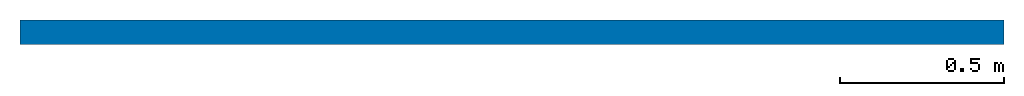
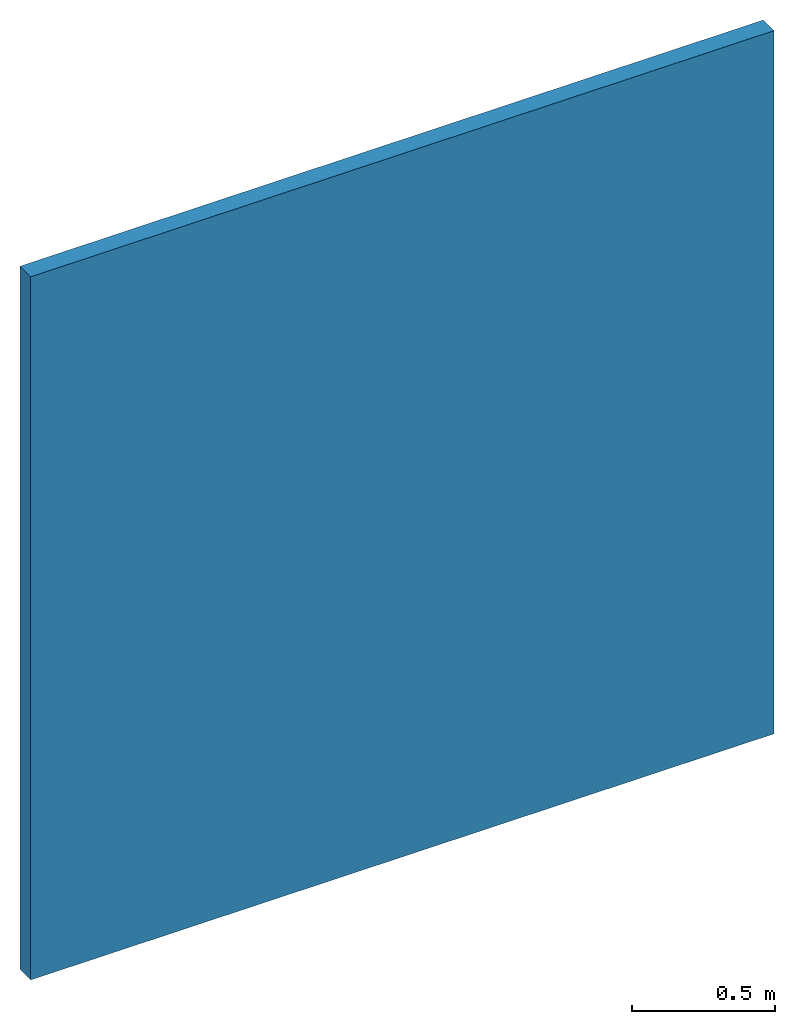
# One storey: 1 wall.
"""IFC2X3 building model written with IfcOpenShell, lengths in millimetres."""

from ifc_helpers import new_model, entity, si_unit, converted_unit, derived_unit, direction, frame, frame_2d, origin, place, context, subcontext, project, spatial, rectangle, extrude, material, layer, layer_set, layer_usage, type_object, element, save


model = new_model("IFC2X3")

# Units and contexts
model_context = context("Model", 3, precision=0.01, world=origin(), true_north=direction((6.12303176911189e-17, 1.0)))
body_context = subcontext(model_context, "Body", "Model", "MODEL_VIEW")
ifc_project = project(units=[si_unit("LENGTHUNIT", "METRE", prefix="MILLI"), si_unit("AREAUNIT", "SQUARE_METRE"), si_unit("VOLUMEUNIT", "CUBIC_METRE"), converted_unit("PLANEANGLEUNIT", "DEGREE", entity("IfcRatioMeasure", 0.0174532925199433), si_unit("PLANEANGLEUNIT", "RADIAN"), dimensions=[0, 0, 0, 0, 0, 0, 0]), si_unit("MASSUNIT", "GRAM", prefix="KILO"), si_unit("TIMEUNIT", "SECOND"), si_unit("FREQUENCYUNIT", "HERTZ"), si_unit("THERMODYNAMICTEMPERATUREUNIT", "DEGREE_CELSIUS"), derived_unit("THERMALTRANSMITTANCEUNIT", [(si_unit("MASSUNIT", "GRAM", prefix="KILO"), 1), (si_unit("THERMODYNAMICTEMPERATUREUNIT", "KELVIN"), -1), (si_unit("TIMEUNIT", "SECOND"), -3)]), derived_unit("VOLUMETRICFLOWRATEUNIT", [(si_unit("LENGTHUNIT", "METRE"), 3), (si_unit("TIMEUNIT", "SECOND"), -1)]), si_unit("ELECTRICCURRENTUNIT", "AMPERE"), si_unit("ELECTRICVOLTAGEUNIT", "VOLT"), si_unit("POWERUNIT", "WATT"), si_unit("FORCEUNIT", "NEWTON", prefix="KILO"), si_unit("ILLUMINANCEUNIT", "LUX"), si_unit("LUMINOUSFLUXUNIT", "LUMEN"), si_unit("LUMINOUSINTENSITYUNIT", "CANDELA"), derived_unit("USERDEFINED", [(si_unit("MASSUNIT", "GRAM", prefix="KILO"), -1), (si_unit("LENGTHUNIT", "METRE"), -2), (si_unit("TIMEUNIT", "SECOND"), 3), (si_unit("LUMINOUSFLUXUNIT", "LUMEN"), 1)]), derived_unit("LINEARVELOCITYUNIT", [(si_unit("LENGTHUNIT", "METRE"), 1), (si_unit("TIMEUNIT", "SECOND"), -1)]), si_unit("PRESSUREUNIT", "PASCAL"), derived_unit("USERDEFINED", [(si_unit("LENGTHUNIT", "METRE"), -2), (si_unit("MASSUNIT", "GRAM", prefix="KILO"), 1), (si_unit("TIMEUNIT", "SECOND"), -2)])], contexts=[model_context])

# Site, building, storey
site_placement = place(None, origin())
site = spatial("IfcSite", under=ifc_project, at=site_placement, Name="Default", CompositionType="ELEMENT")
building_placement = place(site_placement, origin())
building = spatial("IfcBuilding", under=site, at=building_placement, CompositionType="ELEMENT")
storey_placement = place(building_placement, origin())
storey = spatial("IfcBuildingStorey", under=building, at=storey_placement, Name="Уровень 1", CompositionType="ELEMENT", Elevation=0.0)

# Wall
ifc_material_1 = material(Name="КНАУФ-лист")
ifc_layer_1 = layer(ifc_material_1, 12.5)
ifc_layer_2 = layer(ifc_material_1, 12.5)
ifc_material_2 = material(Name="КНАУФ-профиль+мин.вата 20@600mm")
ifc_layer_3 = layer(ifc_material_2, 20.0)
ifc_material_3 = material(Name="Luft")
ifc_layer_4 = layer(ifc_material_3, 30.0)
ifc_layer_set = layer_set([ifc_layer_1, ifc_layer_2, ifc_layer_3, ifc_layer_4], Name="Базовая стена:Облицовка КНАУФ С626 Применение внутри здания ПС50х50 ПН50х40 шаг 300 ГСП-А 12.5")
ifc_layer_usage = layer_usage(ifc_layer_set, "AXIS2", "NEGATIVE", 37.5)
wall_type = type_object("IfcWallType", Name="Базовая стена:Облицовка КНАУФ С626 Применение внутри здания ПС50х50 ПН50х40 шаг 300 ГСП-А 12.5", PredefinedType="STANDARD", material=ifc_layer_set)
wall_placement = place(storey_placement, frame((-1875.46246038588, 1157.08754437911, 0.0)))
element("IfcWallStandardCase", 1, at=wall_placement, inside=storey, type_object=wall_type, material=ifc_layer_usage, Name="Базовая стена:Облицовка КНАУФ С626 Применение внутри здания ПС50х50 ПН50х40 шаг 300 ГСП-А 12.5", ObjectType="Базовая стена:Облицовка КНАУФ С626 Применение внутри здания ПС50х50 ПН50х40 шаг 300 ГСП-А 12.5", context=body_context, shape_type="SweptSolid", body=[
    extrude(rectangle(XDim=3000.0, YDim=75.0, at=frame_2d((1500.0, 0.0), x_axis=(-1.0, 0.0))), origin(), (0.0, 0.0, 1.0), 3000.0),
])

save(model, "model.ifc")
